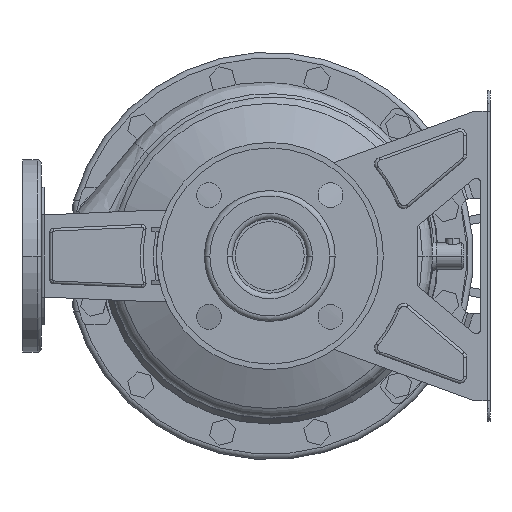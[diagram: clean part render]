
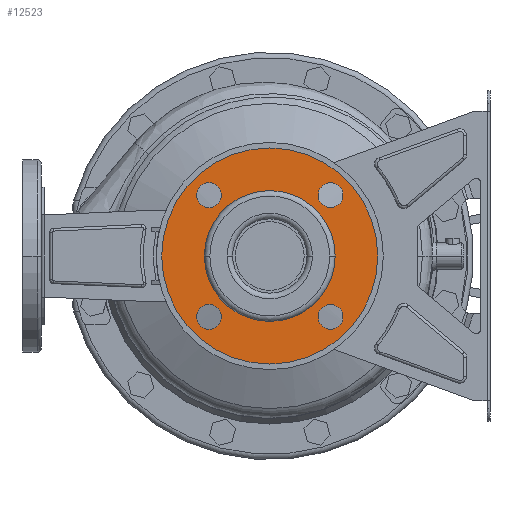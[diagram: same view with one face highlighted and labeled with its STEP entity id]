
A CAD part, left-side view. The second image highlights one B-rep face of the part: STEP entity #12523.
In plain terms, the highlighted planar face has unit normal (-1, 0, 0).
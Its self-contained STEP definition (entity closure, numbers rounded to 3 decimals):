
#11856=CARTESIAN_POINT('',(12.,0.,0.));
#11857=DIRECTION('',(-1.,0.,0.));
#11858=DIRECTION('',(0.,1.,0.));
#11859=AXIS2_PLACEMENT_3D('',#11856,#11857,#11858);
#11864=CARTESIAN_POINT('',(12.,0.,0.));
#11865=DIRECTION('',(1.,0.,0.));
#11866=DIRECTION('',(0.,1.,0.));
#11867=AXIS2_PLACEMENT_3D('',#11864,#11865,#11866);
#11872=CARTESIAN_POINT('',(12.,-44.194,44.194));
#11873=DIRECTION('',(1.,0.,0.));
#11874=DIRECTION('',(0.,1.,0.));
#11875=AXIS2_PLACEMENT_3D('',#11872,#11873,#11874);
#11880=CARTESIAN_POINT('',(12.,-44.194,44.194));
#11881=DIRECTION('',(1.,0.,0.));
#11882=DIRECTION('',(0.,-1.,0.));
#11883=AXIS2_PLACEMENT_3D('',#11880,#11881,#11882);
#11888=CARTESIAN_POINT('',(12.,-44.194,-44.194));
#11889=DIRECTION('',(1.,0.,0.));
#11890=DIRECTION('',(0.,0.,1.));
#11891=AXIS2_PLACEMENT_3D('',#11888,#11889,#11890);
#11896=CARTESIAN_POINT('',(12.,-44.194,-44.194));
#11897=DIRECTION('',(1.,0.,0.));
#11898=DIRECTION('',(0.,0.,-1.));
#11899=AXIS2_PLACEMENT_3D('',#11896,#11897,#11898);
#11904=CARTESIAN_POINT('',(12.,44.194,-44.194));
#11905=DIRECTION('',(1.,0.,0.));
#11906=DIRECTION('',(0.,-1.,0.));
#11907=AXIS2_PLACEMENT_3D('',#11904,#11905,#11906);
#11912=CARTESIAN_POINT('',(12.,44.194,-44.194));
#11913=DIRECTION('',(1.,0.,0.));
#11914=DIRECTION('',(0.,1.,0.));
#11915=AXIS2_PLACEMENT_3D('',#11912,#11913,#11914);
#11920=CARTESIAN_POINT('',(12.,44.194,44.194));
#11921=DIRECTION('',(1.,0.,0.));
#11922=DIRECTION('',(0.,0.,-1.));
#11923=AXIS2_PLACEMENT_3D('',#11920,#11921,#11922);
#11928=CARTESIAN_POINT('',(12.,44.194,44.194));
#11929=DIRECTION('',(1.,0.,0.));
#11930=DIRECTION('',(0.,0.,1.));
#11931=AXIS2_PLACEMENT_3D('',#11928,#11929,#11930);
#11936=CARTESIAN_POINT('',(12.,0.,0.));
#11937=DIRECTION('',(1.,0.,0.));
#11938=DIRECTION('',(0.,1.,0.));
#11939=AXIS2_PLACEMENT_3D('',#11936,#11937,#11938);
#11958=CARTESIAN_POINT('',(12.,0.,0.));
#11959=DIRECTION('',(-1.,0.,0.));
#11960=DIRECTION('',(0.,1.,0.));
#11961=AXIS2_PLACEMENT_3D('',#11958,#11959,#11960);
#12123=CARTESIAN_POINT('',(12.,78.5,0.));
#12125=VERTEX_POINT('',#12123);
#12126=CARTESIAN_POINT('',(12.,47.5,0.));
#12128=VERTEX_POINT('',#12126);
#12155=CARTESIAN_POINT('',(12.,-78.5,0.));
#12157=VERTEX_POINT('',#12155);
#12158=CARTESIAN_POINT('',(12.,-47.5,0.));
#12160=VERTEX_POINT('',#12158);
#12170=CARTESIAN_POINT('',(12.,-35.194,44.194));
#12171=CARTESIAN_POINT('',(12.,-53.194,44.194));
#12172=VERTEX_POINT('',#12170);
#12173=VERTEX_POINT('',#12171);
#12178=CARTESIAN_POINT('',(12.,-44.194,-35.194));
#12179=CARTESIAN_POINT('',(12.,-44.194,-53.194));
#12180=VERTEX_POINT('',#12178);
#12181=VERTEX_POINT('',#12179);
#12186=CARTESIAN_POINT('',(12.,35.194,-44.194));
#12187=CARTESIAN_POINT('',(12.,53.194,-44.194));
#12188=VERTEX_POINT('',#12186);
#12189=VERTEX_POINT('',#12187);
#12194=CARTESIAN_POINT('',(12.,44.194,35.194));
#12195=CARTESIAN_POINT('',(12.,44.194,53.194));
#12196=VERTEX_POINT('',#12194);
#12197=VERTEX_POINT('',#12195);
#12484=CARTESIAN_POINT('',(12.,0.,0.));
#12485=DIRECTION('',(1.,0.,0.));
#12486=DIRECTION('',(0.,-1.,0.));
#12487=AXIS2_PLACEMENT_3D('',#12484,#12485,#12486);
#12488=PLANE('',#12487);
#12489=ORIENTED_EDGE('',*,*,#12477,.F.);
#12490=ORIENTED_EDGE('',*,*,#12466,.T.);
#12491=EDGE_LOOP('',(#12489,#12490));
#12492=FACE_OUTER_BOUND('',#12491,.F.);
#12494=ORIENTED_EDGE('',*,*,#12493,.F.);
#12496=ORIENTED_EDGE('',*,*,#12495,.T.);
#12497=EDGE_LOOP('',(#12494,#12496));
#12498=FACE_BOUND('',#12497,.F.);
#12500=ORIENTED_EDGE('',*,*,#12499,.F.);
#12502=ORIENTED_EDGE('',*,*,#12501,.F.);
#12503=EDGE_LOOP('',(#12500,#12502));
#12504=FACE_BOUND('',#12503,.F.);
#12506=ORIENTED_EDGE('',*,*,#12505,.F.);
#12508=ORIENTED_EDGE('',*,*,#12507,.F.);
#12509=EDGE_LOOP('',(#12506,#12508));
#12510=FACE_BOUND('',#12509,.F.);
#12512=ORIENTED_EDGE('',*,*,#12511,.F.);
#12514=ORIENTED_EDGE('',*,*,#12513,.F.);
#12515=EDGE_LOOP('',(#12512,#12514));
#12516=FACE_BOUND('',#12515,.F.);
#12518=ORIENTED_EDGE('',*,*,#12517,.F.);
#12520=ORIENTED_EDGE('',*,*,#12519,.F.);
#12521=EDGE_LOOP('',(#12518,#12520));
#12522=FACE_BOUND('',#12521,.F.);
#11860=CIRCLE('',#11859,78.5);
#11868=CIRCLE('',#11867,78.5);
#11876=CIRCLE('',#11875,9.);
#11884=CIRCLE('',#11883,9.);
#11892=CIRCLE('',#11891,9.);
#11900=CIRCLE('',#11899,9.);
#11908=CIRCLE('',#11907,9.);
#11916=CIRCLE('',#11915,9.);
#11924=CIRCLE('',#11923,9.);
#11932=CIRCLE('',#11931,9.);
#11940=CIRCLE('',#11939,47.5);
#11962=CIRCLE('',#11961,47.5);
#12466=EDGE_CURVE('',#12125,#12157,#11868,.T.);
#12477=EDGE_CURVE('',#12125,#12157,#11860,.T.);
#12493=EDGE_CURVE('',#12128,#12160,#11940,.T.);
#12495=EDGE_CURVE('',#12128,#12160,#11962,.T.);
#12499=EDGE_CURVE('',#12172,#12173,#11876,.T.);
#12501=EDGE_CURVE('',#12173,#12172,#11884,.T.);
#12505=EDGE_CURVE('',#12180,#12181,#11892,.T.);
#12507=EDGE_CURVE('',#12181,#12180,#11900,.T.);
#12511=EDGE_CURVE('',#12188,#12189,#11908,.T.);
#12513=EDGE_CURVE('',#12189,#12188,#11916,.T.);
#12517=EDGE_CURVE('',#12196,#12197,#11924,.T.);
#12519=EDGE_CURVE('',#12197,#12196,#11932,.T.);
#12523=ADVANCED_FACE('',(#12492,#12498,#12504,#12510,#12516,#12522),#12488,.F.);
